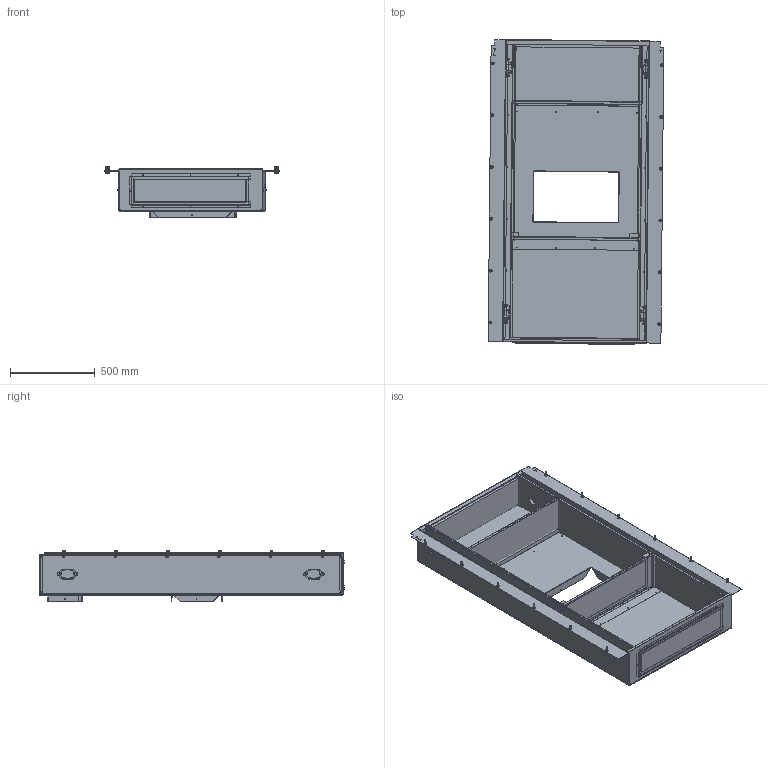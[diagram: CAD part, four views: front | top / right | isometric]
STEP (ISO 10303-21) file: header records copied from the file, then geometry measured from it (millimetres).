
FILE_DESCRIPTION (( 'STEP AP214' ), '1' );
FILE_NAME ('TFCF-32-X.STEP', '2017-06-13T14:44:18', ( 'BMC' ), ( 'Bard Manufacturing Co., Inc.' ), 'SwSTEP 2.0', 'SolidWorks 2017', '' );
FILE_SCHEMA (( 'AUTOMOTIVE_DESIGN' ));
Length unit declared in the file: inch
Products named in the file (1): TFCF-32-X
Bounding box: 1033.47 x 1793.63 x 298.34 mm (x, y, z)
Volume: 28360060.3 mm3; surface area: 12353938.1 mm2
Topology: 64 solids, 64 shells, 4817 faces, 11999 edges, 7222 vertices
Faces by surface type: plane 1938, bspline 1087, cylinder 828, cone 768, torus 180, sphere 16
Entity records: 266885 total; most frequent: CARTESIAN_POINT 96290, ORIENTED_EDGE 23422, DIRECTION 19831, EDGE_CURVE 11711, VERTEX_POINT 7222, AXIS2_PLACEMENT_3D 6735, VECTOR 6361, LINE 6361
